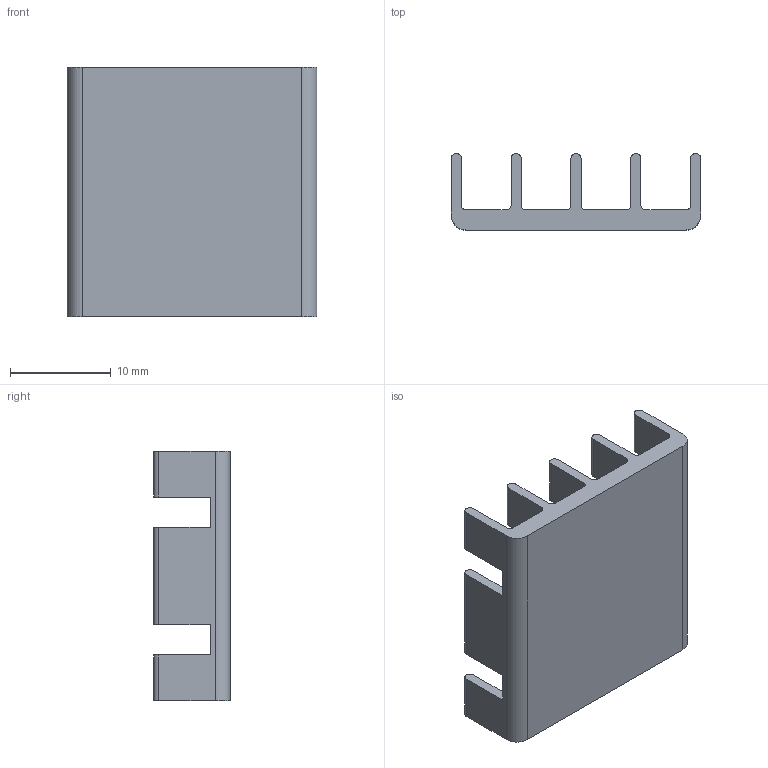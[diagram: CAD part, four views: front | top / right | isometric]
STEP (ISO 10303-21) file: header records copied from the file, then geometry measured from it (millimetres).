
FILE_DESCRIPTION (( 'STEP AP203' ), '1' );
FILE_NAME ('THN-HS2.STEP', '2023-08-04T02:22:47', ( '' ), ( '' ), 'SwSTEP 2.0', 'SolidWorks 2016', '' );
FILE_SCHEMA (( 'CONFIG_CONTROL_DESIGN' ));
Length unit declared in the file: millimetre
Products named in the file (1): THN-HS2
Bounding box: 24.8 x 7.62 x 24.8 mm (x, y, z)
Volume: 1732.4 mm3; surface area: 2546.5 mm2
Topology: 1 solids, 1 shells, 106 faces, 303 edges, 202 vertices
Faces by surface type: cylinder 56, plane 50
Entity records: 3576 total; most frequent: DIRECTION 629, CARTESIAN_POINT 612, ORIENTED_EDGE 606, EDGE_CURVE 303, AXIS2_PLACEMENT_3D 219, VERTEX_POINT 202, VECTOR 191, LINE 191
